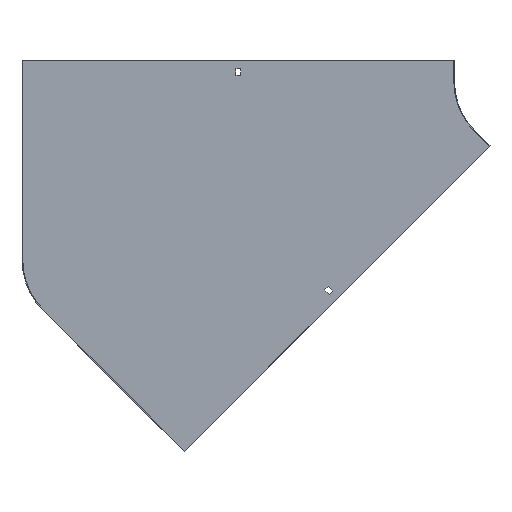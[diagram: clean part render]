
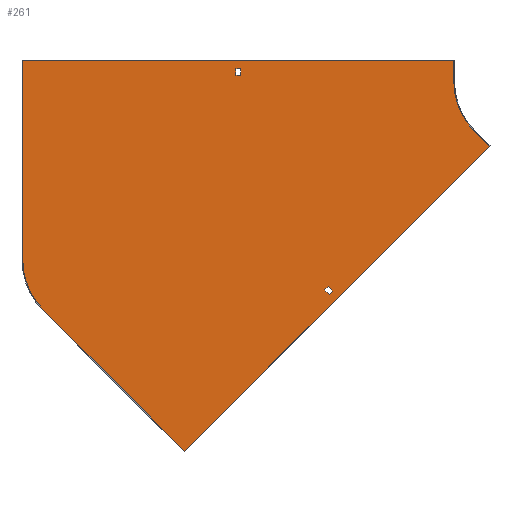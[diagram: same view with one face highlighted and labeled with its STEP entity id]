
A CAD part, front view. The second image highlights one B-rep face of the part: STEP entity #261.
In plain terms, the highlighted planar face has unit normal (0, -1, 0).
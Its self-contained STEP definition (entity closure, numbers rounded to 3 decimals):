
#13 = ORIENTED_EDGE ( 'NONE', *, *, #485, .F. ) ;
#21 = AXIS2_PLACEMENT_3D ( 'NONE', #175, #432, #363 ) ;
#22 = VERTEX_POINT ( 'NONE', #285 ) ;
#23 = ORIENTED_EDGE ( 'NONE', *, *, #397, .F. ) ;
#26 = VERTEX_POINT ( 'NONE', #548 ) ;
#29 = FACE_BOUND ( 'NONE', #104, .T. ) ;
#32 = EDGE_LOOP ( 'NONE', ( #13, #706, #170, #827 ) ) ;
#39 = CARTESIAN_POINT ( 'NONE',  ( -69.65, -1., -69.65 ) ) ;
#47 = VECTOR ( 'NONE', #201, 1000. ) ;
#71 = VERTEX_POINT ( 'NONE', #732 ) ;
#73 = DIRECTION ( 'NONE',  ( -0.707, 0., 0.707 ) ) ;
#87 = PLANE ( 'NONE',  #522 ) ;
#97 = CARTESIAN_POINT ( 'NONE',  ( 0., -1., 9. ) ) ;
#104 = EDGE_LOOP ( 'NONE', ( #482, #257, #848, #393 ) ) ;
#125 = CARTESIAN_POINT ( 'NONE',  ( 6.364, -1., -6.364 ) ) ;
#126 = VERTEX_POINT ( 'NONE', #190 ) ;
#127 = CIRCLE ( 'NONE', #21, 98.5 ) ;
#169 = VECTOR ( 'NONE', #199, 1000. ) ;
#170 = ORIENTED_EDGE ( 'NONE', *, *, #620, .F. ) ;
#173 = DIRECTION ( 'NONE',  ( -0.707, 0., -0.707 ) ) ;
#175 = CARTESIAN_POINT ( 'NONE',  ( 0., -1., 0. ) ) ;
#177 = EDGE_CURVE ( 'NONE', #274, #254, #601, .T. ) ;
#182 = CARTESIAN_POINT ( 'NONE',  ( -704.5, -1., 30. ) ) ;
#188 = LINE ( 'NONE', #252, #626 ) ;
#189 = LINE ( 'NONE', #722, #572 ) ;
#190 = CARTESIAN_POINT ( 'NONE',  ( -274.888, -1., -287.616 ) ) ;
#193 = DIRECTION ( 'NONE',  ( 0.707, 0., -0.707 ) ) ;
#199 = DIRECTION ( 'NONE',  ( 0., 0., 1. ) ) ;
#201 = DIRECTION ( 'NONE',  ( -0.707, 0., -0.707 ) ) ;
#202 = ORIENTED_EDGE ( 'NONE', *, *, #688, .F. ) ;
#208 = CARTESIAN_POINT ( 'NONE',  ( -674.064, -1., -320.835 ) ) ;
#218 = CARTESIAN_POINT ( 'NONE',  ( 0., -1., 18. ) ) ;
#222 = LINE ( 'NONE', #682, #354 ) ;
#231 = VERTEX_POINT ( 'NONE', #808 ) ;
#232 = FACE_OUTER_BOUND ( 'NONE', #306, .T. ) ;
#234 = EDGE_CURVE ( 'NONE', #727, #587, #426, .T. ) ;
#244 = EDGE_CURVE ( 'NONE', #71, #531, #127, .T. ) ;
#248 = CARTESIAN_POINT ( 'NONE',  ( -268.524, -1., -293.98 ) ) ;
#251 = CARTESIAN_POINT ( 'NONE',  ( -48.437, -1., -90.863 ) ) ;
#252 = CARTESIAN_POINT ( 'NONE',  ( 12.728, -1., -12.728 ) ) ;
#254 = VERTEX_POINT ( 'NONE', #611 ) ;
#257 = ORIENTED_EDGE ( 'NONE', *, *, #461, .T. ) ;
#261 = ADVANCED_FACE ( 'NONE', ( #691, #232, #29 ), #87, .T. ) ;
#269 = VECTOR ( 'NONE', #475, 1000. ) ;
#274 = VERTEX_POINT ( 'NONE', #760 ) ;
#275 = ORIENTED_EDGE ( 'NONE', *, *, #677, .F. ) ;
#285 = CARTESIAN_POINT ( 'NONE',  ( -703.5, -1., -249.771 ) ) ;
#291 = DIRECTION ( 'NONE',  ( -1., 0., 0. ) ) ;
#296 = EDGE_CURVE ( 'NONE', #587, #274, #498, .T. ) ;
#306 = EDGE_LOOP ( 'NONE', ( #275, #23, #202, #797, #751, #412, #429, #735 ) ) ;
#315 = DIRECTION ( 'NONE',  ( 0., 1., 0. ) ) ;
#322 = VECTOR ( 'NONE', #787, 1000. ) ;
#345 = EDGE_CURVE ( 'NONE', #825, #526, #188, .T. ) ;
#354 = VECTOR ( 'NONE', #173, 1000. ) ;
#363 = DIRECTION ( 'NONE',  ( 0., 0., -1. ) ) ;
#367 = LINE ( 'NONE', #574, #612 ) ;
#387 = LINE ( 'NONE', #846, #169 ) ;
#393 = ORIENTED_EDGE ( 'NONE', *, *, #296, .T. ) ;
#397 = EDGE_CURVE ( 'NONE', #22, #26, #387, .T. ) ;
#412 = ORIENTED_EDGE ( 'NONE', *, *, #646, .F. ) ;
#424 = CARTESIAN_POINT ( 'NONE',  ( -273.12, -1., -298.576 ) ) ;
#425 = LINE ( 'NONE', #818, #708 ) ;
#426 = LINE ( 'NONE', #97, #768 ) ;
#428 = VECTOR ( 'NONE', #193, 1000. ) ;
#429 = ORIENTED_EDGE ( 'NONE', *, *, #244, .F. ) ;
#432 = DIRECTION ( 'NONE',  ( 0., -1., 0. ) ) ;
#434 = AXIS2_PLACEMENT_3D ( 'NONE', #634, #315, #580 ) ;
#448 = DIRECTION ( 'NONE',  ( 1., 0., 0. ) ) ;
#453 = DIRECTION ( 'NONE',  ( 0., 0., -1. ) ) ;
#461 = EDGE_CURVE ( 'NONE', #254, #727, #189, .T. ) ;
#468 = EDGE_CURVE ( 'NONE', #231, #71, #683, .T. ) ;
#475 = DIRECTION ( 'NONE',  ( 1., 0., 0. ) ) ;
#482 = ORIENTED_EDGE ( 'NONE', *, *, #177, .T. ) ;
#484 = VECTOR ( 'NONE', #863, 1000. ) ;
#485 = EDGE_CURVE ( 'NONE', #526, #126, #425, .T. ) ;
#487 = CARTESIAN_POINT ( 'NONE',  ( 0., -1., 0. ) ) ;
#488 = VECTOR ( 'NONE', #448, 1000. ) ;
#493 = VERTEX_POINT ( 'NONE', #208 ) ;
#498 = LINE ( 'NONE', #765, #703 ) ;
#502 = DIRECTION ( 'NONE',  ( 0., 0., 1. ) ) ;
#504 = EDGE_CURVE ( 'NONE', #702, #493, #367, .T. ) ;
#520 = LINE ( 'NONE', #125, #47 ) ;
#522 = AXIS2_PLACEMENT_3D ( 'NONE', #487, #564, #832 ) ;
#524 = CARTESIAN_POINT ( 'NONE',  ( -285.848, -1., -285.848 ) ) ;
#526 = VERTEX_POINT ( 'NONE', #248 ) ;
#531 = VERTEX_POINT ( 'NONE', #39 ) ;
#548 = CARTESIAN_POINT ( 'NONE',  ( -703.5, -1., 30. ) ) ;
#564 = DIRECTION ( 'NONE',  ( 0., -1., 0. ) ) ;
#572 = VECTOR ( 'NONE', #453, 1000. ) ;
#574 = CARTESIAN_POINT ( 'NONE',  ( -476.236, -1., -518.663 ) ) ;
#580 = DIRECTION ( 'NONE',  ( 0., 0., -1. ) ) ;
#587 = VERTEX_POINT ( 'NONE', #792 ) ;
#591 = LINE ( 'NONE', #182, #488 ) ;
#595 = CARTESIAN_POINT ( 'NONE',  ( -98.5, -1., 30. ) ) ;
#601 = LINE ( 'NONE', #218, #269 ) ;
#602 = CARTESIAN_POINT ( 'NONE',  ( -279.484, -1., -292.212 ) ) ;
#608 = CARTESIAN_POINT ( 'NONE',  ( -397.75, -1., 9. ) ) ;
#611 = CARTESIAN_POINT ( 'NONE',  ( -397.75, -1., 18. ) ) ;
#612 = VECTOR ( 'NONE', #625, 1000. ) ;
#620 = EDGE_CURVE ( 'NONE', #721, #825, #776, .T. ) ;
#625 = DIRECTION ( 'NONE',  ( -0.707, 0., 0.707 ) ) ;
#626 = VECTOR ( 'NONE', #793, 1000. ) ;
#634 = CARTESIAN_POINT ( 'NONE',  ( -603., -1., -249.771 ) ) ;
#646 = EDGE_CURVE ( 'NONE', #531, #667, #730, .T. ) ;
#649 = EDGE_CURVE ( 'NONE', #126, #721, #520, .T. ) ;
#667 = VERTEX_POINT ( 'NONE', #251 ) ;
#677 = EDGE_CURVE ( 'NONE', #26, #231, #591, .T. ) ;
#682 = CARTESIAN_POINT ( 'NONE',  ( -47.73, -1., -90.156 ) ) ;
#683 = LINE ( 'NONE', #595, #484 ) ;
#688 = EDGE_CURVE ( 'NONE', #493, #22, #716, .T. ) ;
#691 = FACE_BOUND ( 'NONE', #32, .T. ) ;
#702 = VERTEX_POINT ( 'NONE', #720 ) ;
#703 = VECTOR ( 'NONE', #502, 1000. ) ;
#706 = ORIENTED_EDGE ( 'NONE', *, *, #345, .F. ) ;
#708 = VECTOR ( 'NONE', #73, 1000. ) ;
#716 = CIRCLE ( 'NONE', #434, 100.5 ) ;
#720 = CARTESIAN_POINT ( 'NONE',  ( -476.236, -1., -518.663 ) ) ;
#721 = VERTEX_POINT ( 'NONE', #602 ) ;
#722 = CARTESIAN_POINT ( 'NONE',  ( -397.75, -1., 0. ) ) ;
#727 = VERTEX_POINT ( 'NONE', #608 ) ;
#730 = LINE ( 'NONE', #782, #428 ) ;
#732 = CARTESIAN_POINT ( 'NONE',  ( -98.5, -1., 0. ) ) ;
#735 = ORIENTED_EDGE ( 'NONE', *, *, #468, .F. ) ;
#751 = ORIENTED_EDGE ( 'NONE', *, *, #856, .F. ) ;
#760 = CARTESIAN_POINT ( 'NONE',  ( -404.25, -1., 18. ) ) ;
#765 = CARTESIAN_POINT ( 'NONE',  ( -404.25, -1., 0. ) ) ;
#768 = VECTOR ( 'NONE', #291, 1000. ) ;
#776 = LINE ( 'NONE', #524, #322 ) ;
#782 = CARTESIAN_POINT ( 'NONE',  ( -69.65, -1., -69.65 ) ) ;
#787 = DIRECTION ( 'NONE',  ( 0.707, 0., -0.707 ) ) ;
#792 = CARTESIAN_POINT ( 'NONE',  ( -404.25, -1., 9. ) ) ;
#793 = DIRECTION ( 'NONE',  ( 0.707, 0., 0.707 ) ) ;
#797 = ORIENTED_EDGE ( 'NONE', *, *, #504, .F. ) ;
#808 = CARTESIAN_POINT ( 'NONE',  ( -98.5, -1., 30. ) ) ;
#818 = CARTESIAN_POINT ( 'NONE',  ( -281.252, -1., -281.252 ) ) ;
#825 = VERTEX_POINT ( 'NONE', #424 ) ;
#827 = ORIENTED_EDGE ( 'NONE', *, *, #649, .F. ) ;
#832 = DIRECTION ( 'NONE',  ( 0., 0., -1. ) ) ;
#846 = CARTESIAN_POINT ( 'NONE',  ( -703.5, -1., -249.771 ) ) ;
#848 = ORIENTED_EDGE ( 'NONE', *, *, #234, .T. ) ;
#856 = EDGE_CURVE ( 'NONE', #667, #702, #222, .T. ) ;
#863 = DIRECTION ( 'NONE',  ( 0., 0., -1. ) ) ;
